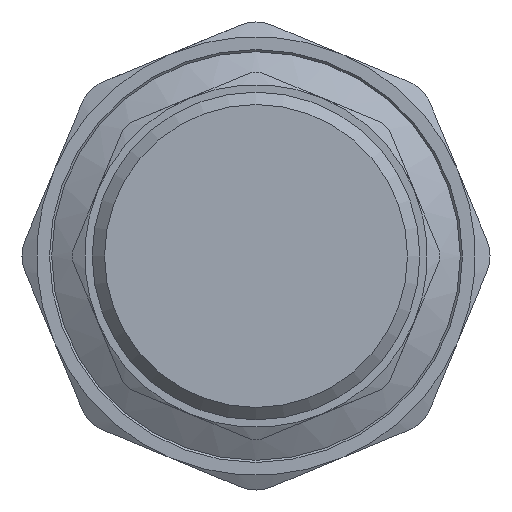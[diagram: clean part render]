
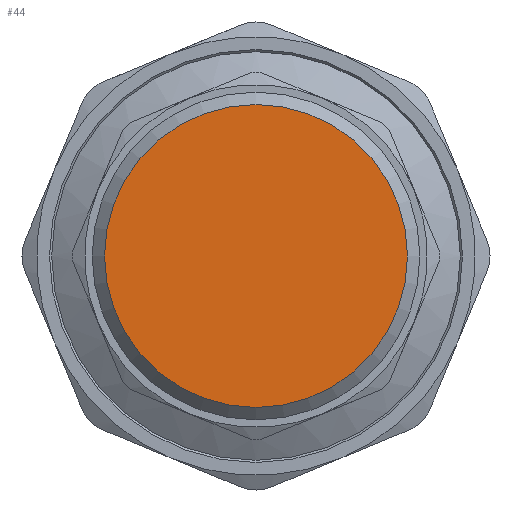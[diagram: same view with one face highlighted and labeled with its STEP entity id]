
A CAD part, front view. The second image highlights one B-rep face of the part: STEP entity #44.
In plain terms, the highlighted planar face has unit normal (0, -1, 0).
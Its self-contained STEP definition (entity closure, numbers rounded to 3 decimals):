
#44=ADVANCED_FACE('',(#108),#110,.F.);
#108=FACE_BOUND('',#109,.T.);
#109=EDGE_LOOP('',(#582));
#110=PLANE('',#111);
#111=AXIS2_PLACEMENT_3D('',#112,#113,#114);
#112=CARTESIAN_POINT('',(0.,0.,0.));
#113=DIRECTION('',(0.,1.,0.));
#114=DIRECTION('',(-1.,0.,0.));
#582=ORIENTED_EDGE('',*,*,#870,.F.);
#870=EDGE_CURVE('',#1014,#1014,#1015,.T.);
#1014=VERTEX_POINT('',#1253);
#1015=CIRCLE('',#1254,22.102);
#1253=CARTESIAN_POINT('',(-22.102,0.,0.));
#1254=AXIS2_PLACEMENT_3D('',#1255,#1256,#1257);
#1255=CARTESIAN_POINT('',(0.,0.,0.));
#1256=DIRECTION('',(0.,1.,0.));
#1257=DIRECTION('',(-1.,0.,0.));
